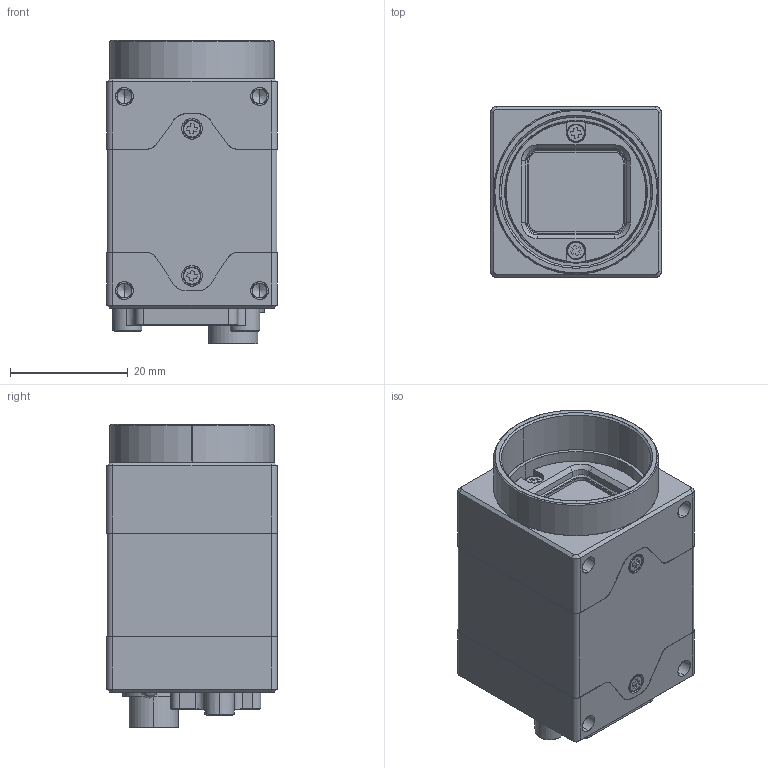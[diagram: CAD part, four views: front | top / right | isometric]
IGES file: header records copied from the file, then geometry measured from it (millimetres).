
Start section: SolidWorks IGES file using analytic representation for surfaces
Global section: file name: P:\engineering\MECH_CAD\mechanical\Documentation\BFS-XL\PGE\BFS-XL-03-R0.IGS; native system: SolidWorks 2018; preprocessor: SolidWorks 2018; author: GStuyt; date: 190304.093414; units: millimetre
Bounding box: 29 x 29 x 51.51 mm (x, y, z)
Surface area: 9089.1 mm2 (no closed solid volume)
Topology: 0 solids, 0 shells, 413 faces, 4518 edges, 4506 vertices
Faces by surface type: bspline 227, revolution 186
